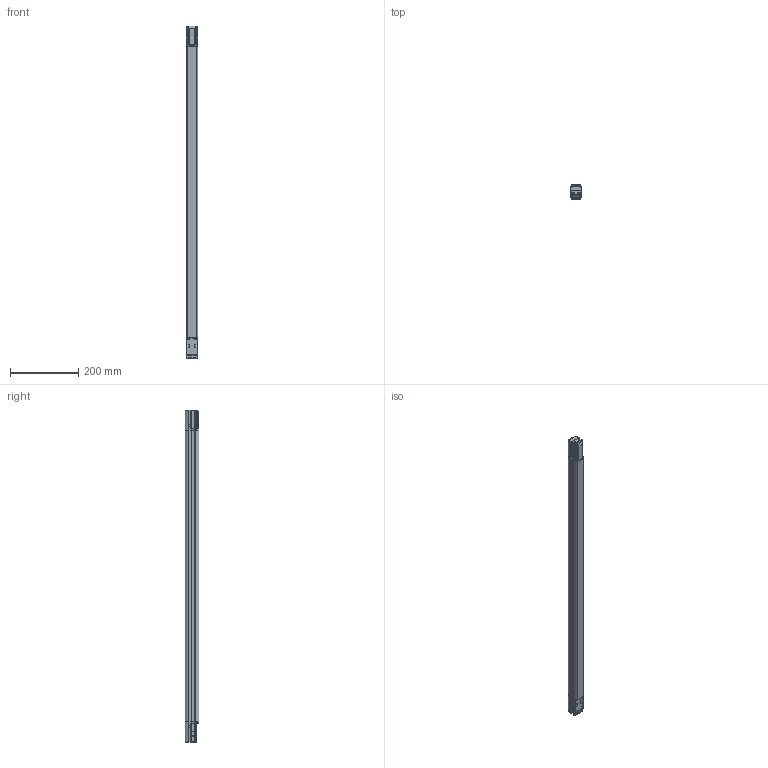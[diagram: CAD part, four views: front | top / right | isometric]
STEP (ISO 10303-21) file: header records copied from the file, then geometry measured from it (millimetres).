
FILE_DESCRIPTION(/* description */ (''),/* implementation_level */ '2;1');
FILE_NAME(/* name */ 'DSD-1127 SH4-P4-080.stp',/* time_stamp */ '2023-01-12T14:11:24+01:00',/* author */ (''),/* organization */ (''),/* preprocessor_version */ 'ST-DEVELOPER v16.701',/* originating_system */ 'SIEMENS PLM Software NX 1946',/* authorisation */ '');
FILE_SCHEMA (('AUTOMOTIVE_DESIGN { 1 0 10303 214 3 1 1 1 }'));
Length unit declared in the file: millimetre
Products named in the file (1): FGut5B4C7397d7fz
Bounding box: 35.08 x 40 x 974 mm (x, y, z)
Volume: 1133312.8 mm3; surface area: 231647.8 mm2
Topology: 6 solids, 11 shells, 891 faces, 2383 edges, 1504 vertices
Faces by surface type: plane 363, cylinder 315, bspline 92, cone 55, extrusion 24, sphere 22, torus 20
Full cylindrical faces by diameter (mm): 2.013 x4, 2.2 x4, 3 x4, 4.37 x4, 5 x8
Entity records: 34929 total; most frequent: CARTESIAN_POINT 13568, ORIENTED_EDGE 4486, DIRECTION 3865, EDGE_CURVE 2243, VERTEX_POINT 1470, AXIS2_PLACEMENT_3D 1345, VECTOR 1175, LINE 1151
